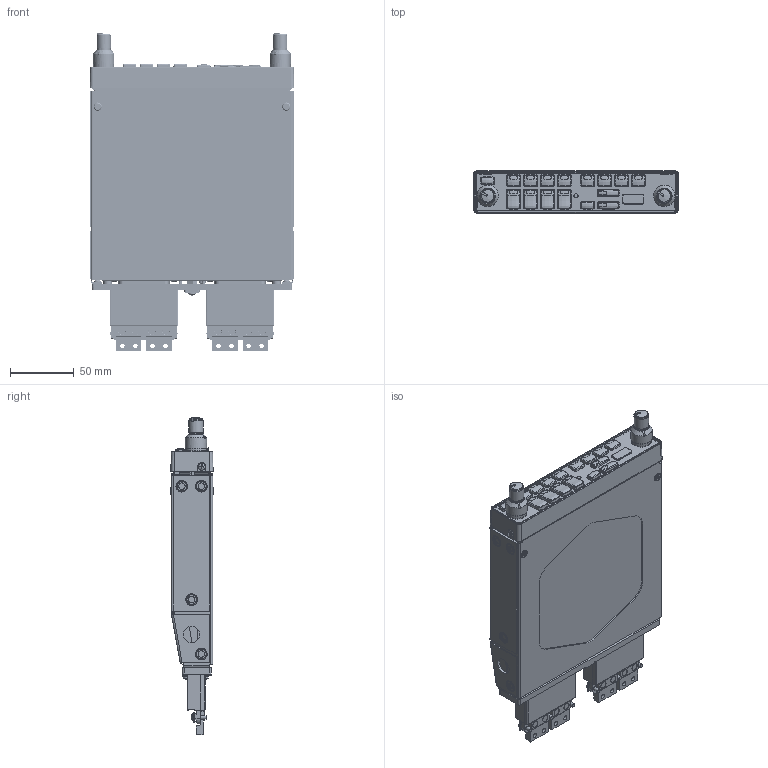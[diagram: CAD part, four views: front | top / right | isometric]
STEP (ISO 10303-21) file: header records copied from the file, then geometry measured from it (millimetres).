
FILE_DESCRIPTION (( 'STEP AP203' ), '1' );
FILE_NAME ('GMA245_011-03519-00_R[115-00262-00]_B[011-00678-00]_C[011-02302-00]_rev1.STEP', '2017-08-31T16:41:57', ( 'Garmin' ), ( 'Garmin' ), 'SwSTEP 2.0', 'SolidWorks 2016', '' );
FILE_SCHEMA (( 'CONFIG_CONTROL_DESIGN' ));
Products named in the file (1): GMA245_011-03519-00_R[115-00262-00]_B[011-00678-00]_C[011-02302-00]_rev1
Bounding box: 160.02 x 33.66 x 248.17 mm (x, y, z)
Volume: 840581.3 mm3; surface area: 196834.7 mm2
Topology: 5 solids, 76 shells, 4071 faces, 10073 edges, 6559 vertices
Faces by surface type: plane 1823, cylinder 1181, bspline 518, cone 429, torus 88, sphere 32
Full cylindrical faces by diameter (mm): 0.73 x88, 0.889 x34, 1.397 x88, 2.159 x2, 2.54 x4, 2.845 x39, 2.921 x4, 3.048 x7, 3.175 x5, 3.302 x11, 3.454 x8, 3.505 x3, 3.962 x1, 4.064 x1, 4.572 x1, 5.08 x9, 5.429 x12, 5.563 x21, 6.502 x1, 6.858 x2, 9.144 x8, 9.525 x1, 9.722 x4, 10.668 x2, 11.176 x2, 12.7 x2, 13.97 x2, 16.129 x2, 16.637 x2
Entity records: 136729 total; most frequent: CARTESIAN_POINT 46410, ORIENTED_EDGE 18456, DIRECTION 17784, EDGE_CURVE 9228, AXIS2_PLACEMENT_3D 6549, VERTEX_POINT 6297, EDGE_LOOP 5169, VECTOR 4686
